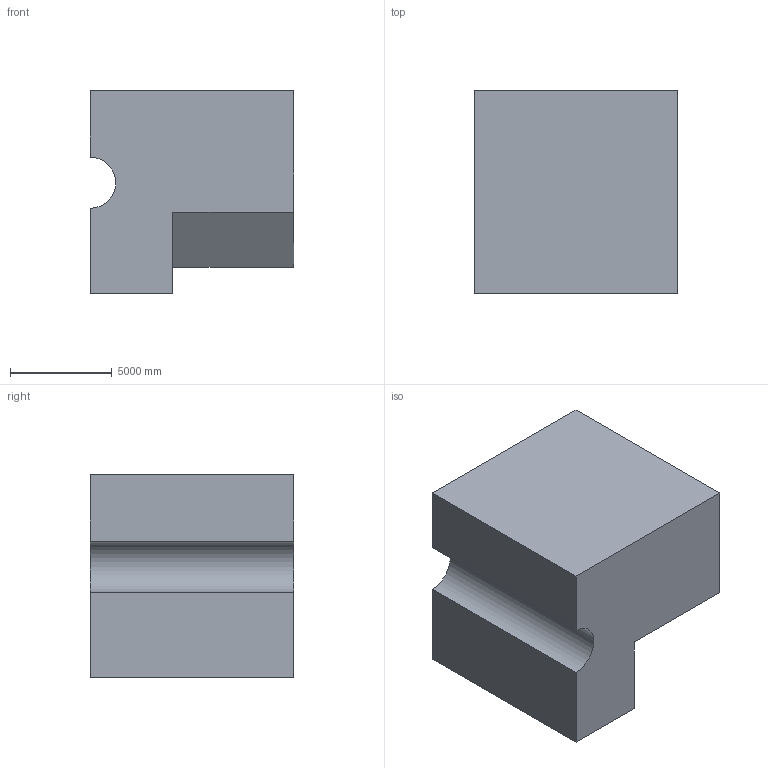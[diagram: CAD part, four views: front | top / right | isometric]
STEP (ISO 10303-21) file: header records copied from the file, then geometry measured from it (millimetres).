
FILE_DESCRIPTION (( 'STEP AP203' ), '1' );
FILE_NAME ('1135.STEP', '2022-08-18T12:53:54', ( 'user' ), ( '' ), 'SwSTEP 2.0', 'SolidWorks 2021', '' );
FILE_SCHEMA (( 'CONFIG_CONTROL_DESIGN' ));
Length unit declared in the file: centimetre
Products named in the file (1): 1135
Bounding box: 10000 x 10000 x 10000 mm (x, y, z)
Volume: 817453559023.4 mm3; surface area: 579900058.7 mm2
Topology: 1 solids, 1 shells, 10 faces, 24 edges, 16 vertices
Faces by surface type: plane 9, cylinder 1
Entity records: 367 total; most frequent: CARTESIAN_POINT 51, ORIENTED_EDGE 48, DIRECTION 48, EDGE_CURVE 24, VECTOR 22, LINE 22, VERTEX_POINT 16, AXIS2_PLACEMENT_3D 13
